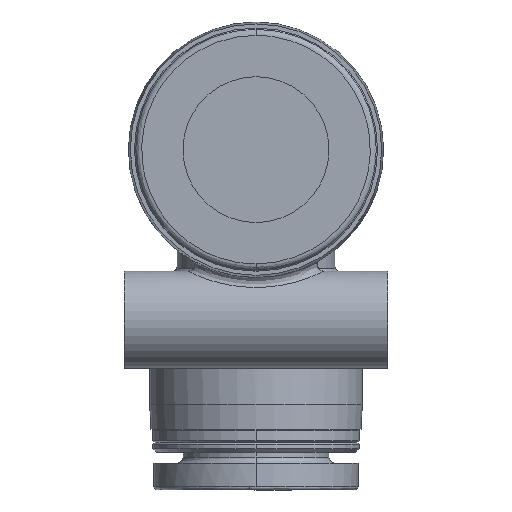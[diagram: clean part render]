
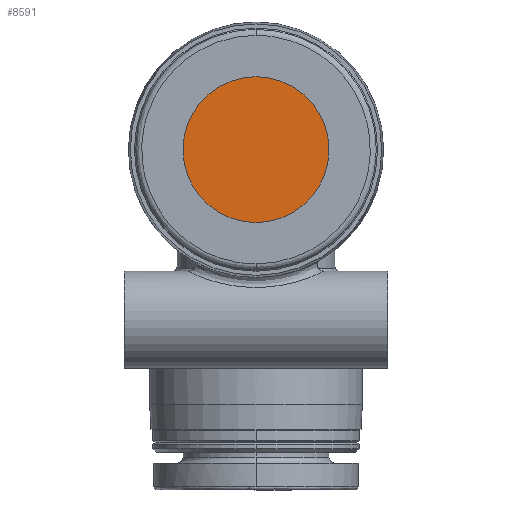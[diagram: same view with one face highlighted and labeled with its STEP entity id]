
A CAD part, left-side view. The second image highlights one B-rep face of the part: STEP entity #8591.
In plain terms, the highlighted planar face has unit normal (-1, 0, 0).
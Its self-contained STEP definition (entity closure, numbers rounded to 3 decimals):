
#553 = EDGE_LOOP ( 'NONE', ( #4331, #1139 ) ) ;
#961 = VERTEX_POINT ( 'NONE', #3359 ) ;
#1139 = ORIENTED_EDGE ( 'NONE', *, *, #6124, .T. ) ;
#1647 = DIRECTION ( 'NONE',  ( 0., 0., 1. ) ) ;
#1827 = CARTESIAN_POINT ( 'NONE',  ( -5., 0., 0. ) ) ;
#2351 = CIRCLE ( 'NONE', #7399, 6. ) ;
#2508 = DIRECTION ( 'NONE',  ( 0., 0., 1. ) ) ;
#2679 = FACE_OUTER_BOUND ( 'NONE', #553, .T. ) ;
#3015 = CARTESIAN_POINT ( 'NONE',  ( -5., -6.5, 6.5 ) ) ;
#3349 = EDGE_CURVE ( 'NONE', #4441, #961, #3523, .T. ) ;
#3359 = CARTESIAN_POINT ( 'NONE',  ( -5., 0., -6. ) ) ;
#3523 = CIRCLE ( 'NONE', #8793, 6. ) ;
#4331 = ORIENTED_EDGE ( 'NONE', *, *, #3349, .T. ) ;
#4441 = VERTEX_POINT ( 'NONE', #8364 ) ;
#4460 = DIRECTION ( 'NONE',  ( 0., 0., 1. ) ) ;
#4554 = DIRECTION ( 'NONE',  ( -1., 0., 0. ) ) ;
#4647 = CARTESIAN_POINT ( 'NONE',  ( -5., 0., 0. ) ) ;
#5045 = PLANE ( 'NONE',  #8780 ) ;
#5750 = DIRECTION ( 'NONE',  ( -1., 0., 0. ) ) ;
#6124 = EDGE_CURVE ( 'NONE', #961, #4441, #2351, .T. ) ;
#6618 = DIRECTION ( 'NONE',  ( -1., 0., 0. ) ) ;
#7399 = AXIS2_PLACEMENT_3D ( 'NONE', #1827, #6618, #2508 ) ;
#8364 = CARTESIAN_POINT ( 'NONE',  ( -5., 0., 6. ) ) ;
#8591 = ADVANCED_FACE ( '91', ( #2679 ), #5045, .T. ) ;
#8780 = AXIS2_PLACEMENT_3D ( 'NONE', #3015, #5750, #1647 ) ;
#8793 = AXIS2_PLACEMENT_3D ( 'NONE', #4647, #4554, #4460 ) ;
